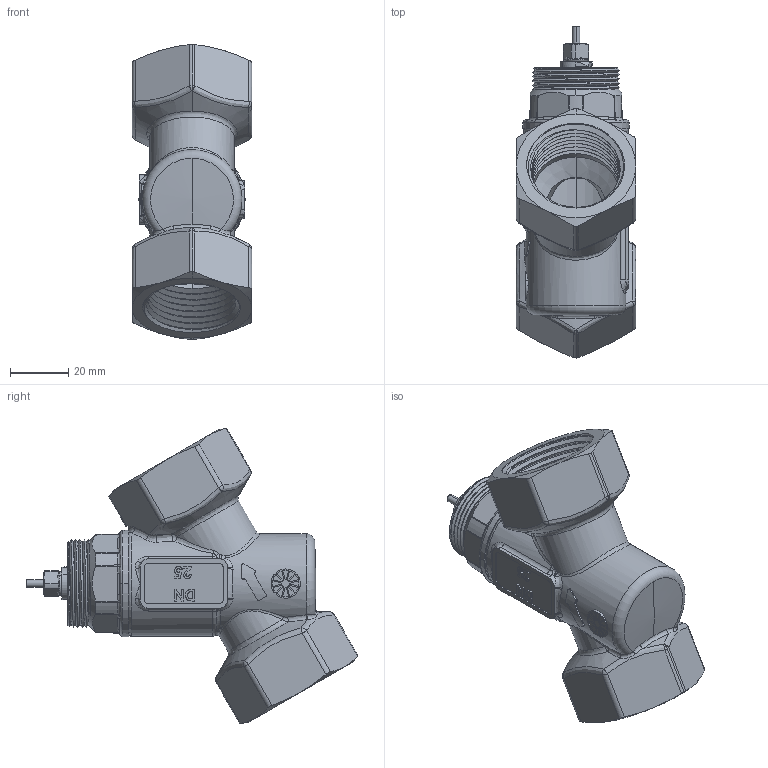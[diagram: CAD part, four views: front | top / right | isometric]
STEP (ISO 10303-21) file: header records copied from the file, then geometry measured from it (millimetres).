
FILE_DESCRIPTION (( 'STEP AP214' ), '1' );
FILE_NAME ('FlowCon A DN25 ISO Green HF.step', '2024-04-04T13:40:27', ( '' ), ( '' ), 'SwSTEP 2.0', 'SolidWorks 2023', '' );
FILE_SCHEMA (( 'AUTOMOTIVE_DESIGN' ));
Products named in the file (1): FlowCon A DN25 ISO Green HF
Bounding box: 41 x 113.78 x 101.23 mm (x, y, z)
Surface area: 31714.1 mm2 (no closed solid volume)
Topology: 0 solids, 24 shells, 649 faces, 2033 edges, 1387 vertices
Faces by surface type: plane 223, cylinder 188, bspline 144, cone 53, torus 27, sphere 14
Entity records: 41534 total; most frequent: CARTESIAN_POINT 25234, ORIENTED_EDGE 3530, DIRECTION 2921, EDGE_CURVE 2019, VERTEX_POINT 1387, AXIS2_PLACEMENT_3D 1042, LINE 837, VECTOR 837
